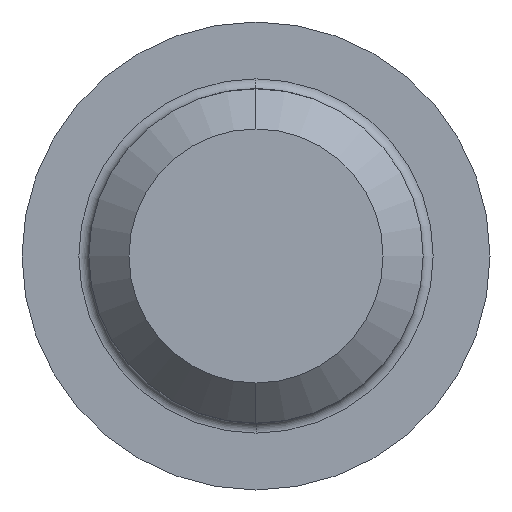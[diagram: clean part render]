
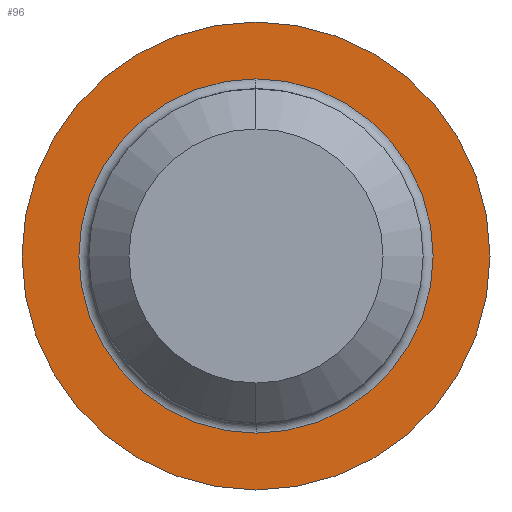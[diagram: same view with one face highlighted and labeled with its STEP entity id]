
A CAD part, left-side view. The second image highlights one B-rep face of the part: STEP entity #96.
In plain terms, the highlighted planar face has unit normal (-1, 0, 0).
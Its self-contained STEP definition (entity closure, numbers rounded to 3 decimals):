
#1 = DIRECTION ( 'NONE',  ( 0., 0., 1. ) ) ;
#3 = FACE_BOUND ( 'NONE', #189, .T. ) ;
#7 = FACE_OUTER_BOUND ( 'NONE', #179, .T. ) ;
#8 = CIRCLE ( 'NONE', #18, 5.3 ) ;
#16 = DIRECTION ( 'NONE',  ( 1., 0., 0. ) ) ;
#17 = CARTESIAN_POINT ( 'NONE',  ( 0., 0., 0. ) ) ;
#18 = AXIS2_PLACEMENT_3D ( 'NONE', #17, #16, #20 ) ;
#20 = DIRECTION ( 'NONE',  ( 0., 0., -1. ) ) ;
#21 = CIRCLE ( 'NONE', #23, 7. ) ;
#22 = DIRECTION ( 'NONE',  ( -1., 0., 0. ) ) ;
#23 = AXIS2_PLACEMENT_3D ( 'NONE', #25, #22, #1 ) ;
#25 = CARTESIAN_POINT ( 'NONE',  ( 0., 0., 0. ) ) ;
#28 = CARTESIAN_POINT ( 'NONE',  ( 0., 7., 0. ) ) ;
#30 = PLANE ( 'NONE',  #34 ) ;
#31 = DIRECTION ( 'NONE',  ( 1., 0., 0. ) ) ;
#33 = DIRECTION ( 'NONE',  ( 0., 0., -1. ) ) ;
#34 = AXIS2_PLACEMENT_3D ( 'NONE', #28, #31, #33 ) ;
#95 = ORIENTED_EDGE ( 'NONE', *, *, #101, .T. ) ;
#96 = ADVANCED_FACE ( 'NONE', ( #3, #7 ), #30, .F. ) ;
#97 = ORIENTED_EDGE ( 'NONE', *, *, #161, .T. ) ;
#98 = ORIENTED_EDGE ( 'NONE', *, *, #107, .T. ) ;
#99 = ORIENTED_EDGE ( 'NONE', *, *, #178, .T. ) ;
#101 = EDGE_CURVE ( 'NONE', #165, #164, #21, .T. ) ;
#107 = EDGE_CURVE ( 'NONE', #112, #113, #8, .T. ) ;
#112 = VERTEX_POINT ( 'NONE', #426 ) ;
#113 = VERTEX_POINT ( 'NONE', #300 ) ;
#161 = EDGE_CURVE ( 'NONE', #164, #165, #231, .T. ) ;
#164 = VERTEX_POINT ( 'NONE', #280 ) ;
#165 = VERTEX_POINT ( 'NONE', #320 ) ;
#178 = EDGE_CURVE ( 'NONE', #113, #112, #267, .T. ) ;
#179 = EDGE_LOOP ( 'NONE', ( #97, #95 ) ) ;
#189 = EDGE_LOOP ( 'NONE', ( #99, #98 ) ) ;
#228 = AXIS2_PLACEMENT_3D ( 'NONE', #240, #323, #322 ) ;
#231 = CIRCLE ( 'NONE', #228, 7. ) ;
#240 = CARTESIAN_POINT ( 'NONE',  ( 0., 0., 0. ) ) ;
#267 = CIRCLE ( 'NONE', #411, 5.3 ) ;
#280 = CARTESIAN_POINT ( 'NONE',  ( 0., 0., 7. ) ) ;
#300 = CARTESIAN_POINT ( 'NONE',  ( 0., 0., -5.3 ) ) ;
#320 = CARTESIAN_POINT ( 'NONE',  ( 0., 0., -7. ) ) ;
#322 = DIRECTION ( 'NONE',  ( 0., 0., 1. ) ) ;
#323 = DIRECTION ( 'NONE',  ( -1., 0., 0. ) ) ;
#408 = DIRECTION ( 'NONE',  ( 0., 0., -1. ) ) ;
#409 = DIRECTION ( 'NONE',  ( 1., 0., 0. ) ) ;
#410 = CARTESIAN_POINT ( 'NONE',  ( 0., 0., 0. ) ) ;
#411 = AXIS2_PLACEMENT_3D ( 'NONE', #410, #409, #408 ) ;
#426 = CARTESIAN_POINT ( 'NONE',  ( 0., 0., 5.3 ) ) ;
